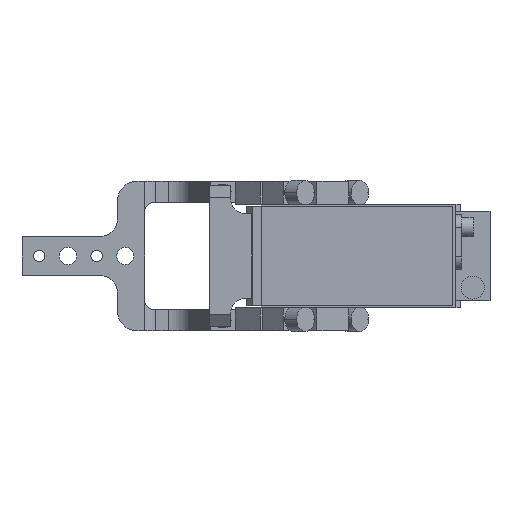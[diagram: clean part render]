
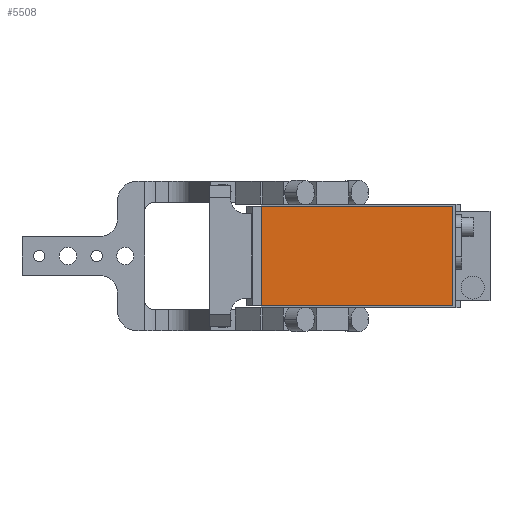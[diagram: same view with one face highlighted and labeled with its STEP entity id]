
A CAD part, front view. The second image highlights one B-rep face of the part: STEP entity #5508.
In plain terms, the highlighted planar face has unit normal (0, -1, 0).
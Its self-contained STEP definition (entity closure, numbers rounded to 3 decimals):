
#196 = EDGE_LOOP ( 'NONE', ( #14124, #5176, #2044, #5871 ) ) ;
#334 = VECTOR ( 'NONE', #8963, 1000. ) ;
#405 = CARTESIAN_POINT ( 'NONE',  ( 81., -286.5, -26. ) ) ;
#464 = VECTOR ( 'NONE', #12495, 1000. ) ;
#1200 = VERTEX_POINT ( 'NONE', #5818 ) ;
#1829 = DIRECTION ( 'NONE',  ( 0., -1., 0. ) ) ;
#1915 = EDGE_CURVE ( 'NONE', #11698, #5002, #6049, .T. ) ;
#2044 = ORIENTED_EDGE ( 'NONE', *, *, #1915, .T. ) ;
#2057 = CARTESIAN_POINT ( 'NONE',  ( 0., -286.5, 0. ) ) ;
#2064 = DIRECTION ( 'NONE',  ( 0., 0., 1. ) ) ;
#2517 = EDGE_CURVE ( 'NONE', #9053, #11698, #7718, .T. ) ;
#3230 = DIRECTION ( 'NONE',  ( 0., 0., -1. ) ) ;
#3650 = EDGE_CURVE ( 'NONE', #1200, #9053, #8634, .T. ) ;
#5002 = VERTEX_POINT ( 'NONE', #10767 ) ;
#5176 = ORIENTED_EDGE ( 'NONE', *, *, #2517, .T. ) ;
#5508 = ADVANCED_FACE ( 'NONE', ( #7798 ), #12474, .T. ) ;
#5519 = VECTOR ( 'NONE', #2064, 1000. ) ;
#5818 = CARTESIAN_POINT ( 'NONE',  ( -19., -286.5, 26. ) ) ;
#5871 = ORIENTED_EDGE ( 'NONE', *, *, #7483, .T. ) ;
#6049 = LINE ( 'NONE', #10738, #5519 ) ;
#6231 = VECTOR ( 'NONE', #6407, 1000. ) ;
#6407 = DIRECTION ( 'NONE',  ( 0., 0., -1. ) ) ;
#7230 = AXIS2_PLACEMENT_3D ( 'NONE', #2057, #1829, #3230 ) ;
#7483 = EDGE_CURVE ( 'NONE', #5002, #1200, #13641, .T. ) ;
#7718 = LINE ( 'NONE', #12398, #334 ) ;
#7798 = FACE_OUTER_BOUND ( 'NONE', #196, .T. ) ;
#7823 = CARTESIAN_POINT ( 'NONE',  ( -19., -286.5, 26. ) ) ;
#8634 = LINE ( 'NONE', #13280, #6231 ) ;
#8963 = DIRECTION ( 'NONE',  ( 1., 0., 0. ) ) ;
#9053 = VERTEX_POINT ( 'NONE', #14486 ) ;
#10738 = CARTESIAN_POINT ( 'NONE',  ( 81., -286.5, 26. ) ) ;
#10767 = CARTESIAN_POINT ( 'NONE',  ( 81., -286.5, 26. ) ) ;
#11698 = VERTEX_POINT ( 'NONE', #405 ) ;
#12398 = CARTESIAN_POINT ( 'NONE',  ( -19., -286.5, -26. ) ) ;
#12474 = PLANE ( 'NONE',  #7230 ) ;
#12495 = DIRECTION ( 'NONE',  ( -1., 0., 0. ) ) ;
#13280 = CARTESIAN_POINT ( 'NONE',  ( -19., -286.5, 26. ) ) ;
#13641 = LINE ( 'NONE', #7823, #464 ) ;
#14124 = ORIENTED_EDGE ( 'NONE', *, *, #3650, .T. ) ;
#14486 = CARTESIAN_POINT ( 'NONE',  ( -19., -286.5, -26. ) ) ;
